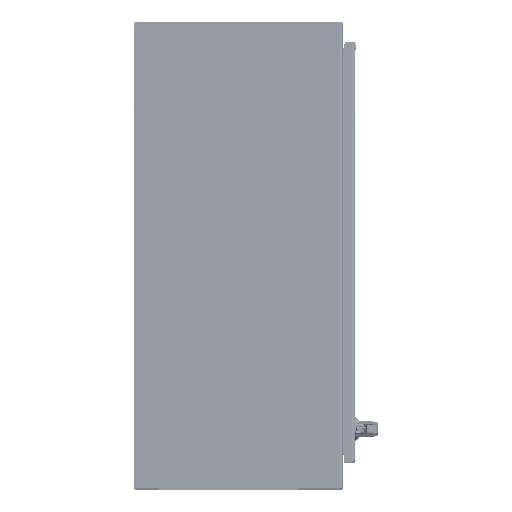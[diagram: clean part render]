
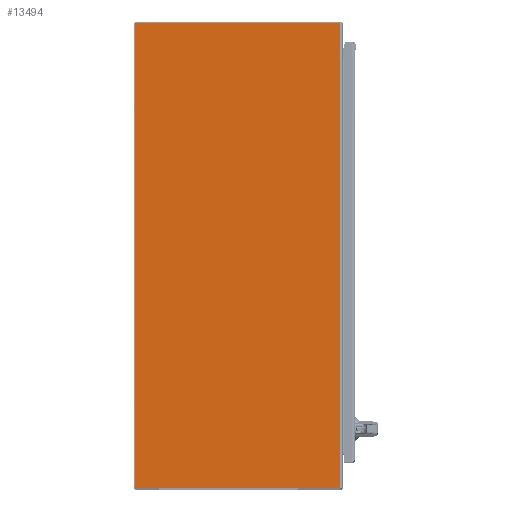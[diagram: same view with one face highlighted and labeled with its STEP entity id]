
A CAD part, top view. The second image highlights one B-rep face of the part: STEP entity #13494.
In plain terms, the highlighted planar face has unit normal (0, 0, 1) as drawn and (0, 1, 0) by its records, which use the part's own axes.
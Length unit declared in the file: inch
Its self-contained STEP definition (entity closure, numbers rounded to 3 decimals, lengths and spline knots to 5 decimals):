
#12709=CARTESIAN_POINT('',(-17.888,0.,-20.013));
#12710=DIRECTION('',(0.,1.,0.));
#12711=DIRECTION('',(0.,0.,-1.));
#12712=AXIS2_PLACEMENT_3D('',#12709,#12710,#12711);
#12717=CARTESIAN_POINT('',(-17.888,0.,20.013));
#12718=DIRECTION('',(0.,1.,0.));
#12719=DIRECTION('',(-1.,0.,0.));
#12720=AXIS2_PLACEMENT_3D('',#12717,#12718,#12719);
#12732=DIRECTION('',(0.,0.,-1.));
#12733=VECTOR('',#12732,40.026);
#12734=CARTESIAN_POINT('',(-17.948,0.,20.013));
#12735=LINE('',#12734,#12733);
#12760=DIRECTION('',(-1.,0.,0.));
#12761=VECTOR('',#12760,17.6415);
#12762=CARTESIAN_POINT('',(-0.2465,0.,20.073));
#12763=LINE('',#12762,#12761);
#12803=DIRECTION('',(0.,0.,1.));
#12804=VECTOR('',#12803,40.146);
#12805=CARTESIAN_POINT('',(-0.2465,0.,-20.073));
#12806=LINE('',#12805,#12804);
#12911=DIRECTION('',(-1.,0.,0.));
#12912=VECTOR('',#12911,17.6415);
#12913=CARTESIAN_POINT('',(-0.2465,0.,-20.073));
#12914=LINE('',#12913,#12912);
#13379=CARTESIAN_POINT('',(-0.2465,0.,20.073));
#13380=VERTEX_POINT('',#13379);
#13381=CARTESIAN_POINT('',(-0.2465,0.,-20.073));
#13382=VERTEX_POINT('',#13381);
#13407=CARTESIAN_POINT('',(-17.888,0.,-20.073));
#13408=CARTESIAN_POINT('',(-17.948,0.,-20.013));
#13409=VERTEX_POINT('',#13407);
#13410=VERTEX_POINT('',#13408);
#13415=CARTESIAN_POINT('',(-17.948,0.,20.013));
#13416=CARTESIAN_POINT('',(-17.888,0.,20.073));
#13417=VERTEX_POINT('',#13415);
#13418=VERTEX_POINT('',#13416);
#13475=CARTESIAN_POINT('',(0.,0.,20.073));
#13476=DIRECTION('',(0.,1.,0.));
#13477=DIRECTION('',(-1.,0.,0.));
#13478=AXIS2_PLACEMENT_3D('',#13475,#13476,#13477);
#13479=PLANE('',#13478);
#13481=ORIENTED_EDGE('',*,*,#13480,.F.);
#13483=ORIENTED_EDGE('',*,*,#13482,.F.);
#13485=ORIENTED_EDGE('',*,*,#13484,.T.);
#13487=ORIENTED_EDGE('',*,*,#13486,.T.);
#13489=ORIENTED_EDGE('',*,*,#13488,.F.);
#13491=ORIENTED_EDGE('',*,*,#13490,.T.);
#13492=EDGE_LOOP('',(#13481,#13483,#13485,#13487,#13489,#13491));
#13493=FACE_OUTER_BOUND('',#13492,.F.);
#12713=CIRCLE('',#12712,0.06);
#12721=CIRCLE('',#12720,0.06);
#13480=EDGE_CURVE('',#13409,#13410,#12713,.T.);
#13482=EDGE_CURVE('',#13382,#13409,#12914,.T.);
#13484=EDGE_CURVE('',#13382,#13380,#12806,.T.);
#13486=EDGE_CURVE('',#13380,#13418,#12763,.T.);
#13488=EDGE_CURVE('',#13417,#13418,#12721,.T.);
#13490=EDGE_CURVE('',#13417,#13410,#12735,.T.);
#13494=ADVANCED_FACE('',(#13493),#13479,.T.);
